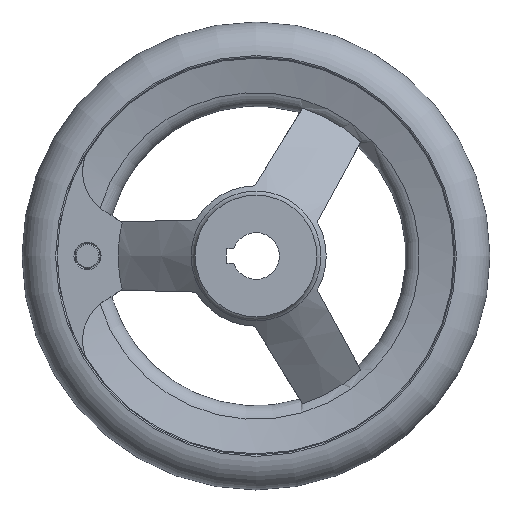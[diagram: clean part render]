
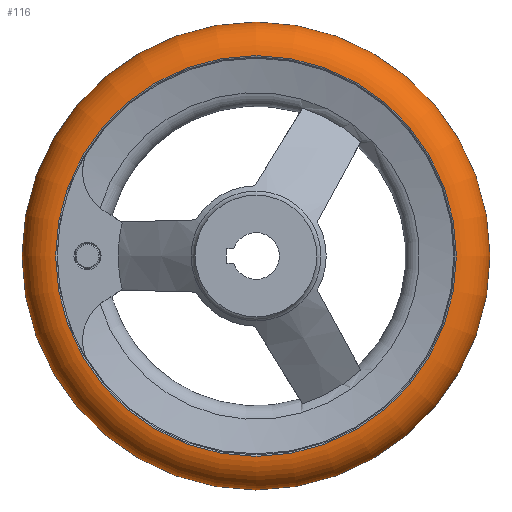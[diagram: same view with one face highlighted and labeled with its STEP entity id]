
A CAD part, left-side view. The second image highlights one B-rep face of the part: STEP entity #116.
In plain terms, the highlighted toroidal (fillet/blend) face has major radius 42.493 mm and minor radius 7.507 mm.
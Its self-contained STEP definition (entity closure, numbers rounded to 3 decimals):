
#116 = ADVANCED_FACE( '', ( #230, #231, #232 ), #233, .T. );
#230 = FACE_BOUND( '', #394, .T. );
#231 = FACE_OUTER_BOUND( '', #395, .T. );
#232 = FACE_OUTER_BOUND( '', #396, .T. );
#233 = TOROIDAL_SURFACE( '', #397, 42.493, 7.507 );
#394 = VERTEX_LOOP( '', #739 );
#395 = EDGE_LOOP( '', ( #740 ) );
#396 = EDGE_LOOP( '', ( #741 ) );
#397 = AXIS2_PLACEMENT_3D( '', #742, #743, #744 );
#739 = VERTEX_POINT( '', #909 );
#740 = ORIENTED_EDGE( '', *, *, #910, .T. );
#741 = ORIENTED_EDGE( '', *, *, #911, .F. );
#742 = CARTESIAN_POINT( '', ( 25.5, 0., 0. ) );
#743 = DIRECTION( '', ( 1., 0., 0. ) );
#744 = DIRECTION( '', ( 0., 1., 0. ) );
#909 = CARTESIAN_POINT( '', ( 25.5, 50., 0. ) );
#910 = EDGE_CURVE( '', #1102, #1102, #1103, .T. );
#911 = EDGE_CURVE( '', #1104, #1104, #1105, .T. );
#1102 = VERTEX_POINT( '', #1675 );
#1103 = CIRCLE( '', #1676, 42.813 );
#1104 = VERTEX_POINT( '', #1677 );
#1105 = CIRCLE( '', #1678, 42.813 );
#1675 = CARTESIAN_POINT( '', ( 18., 42.813, 0. ) );
#1676 = AXIS2_PLACEMENT_3D( '', #1852, #1853, #1854 );
#1677 = CARTESIAN_POINT( '', ( 33., 42.813, 0. ) );
#1678 = AXIS2_PLACEMENT_3D( '', #1855, #1856, #1857 );
#1852 = CARTESIAN_POINT( '', ( 18., 0., 0. ) );
#1853 = DIRECTION( '', ( 1., 0., 0. ) );
#1854 = DIRECTION( '', ( 0., 1., 0. ) );
#1855 = CARTESIAN_POINT( '', ( 33., 0., 0. ) );
#1856 = DIRECTION( '', ( 1., 0., 0. ) );
#1857 = DIRECTION( '', ( 0., 1., 0. ) );
